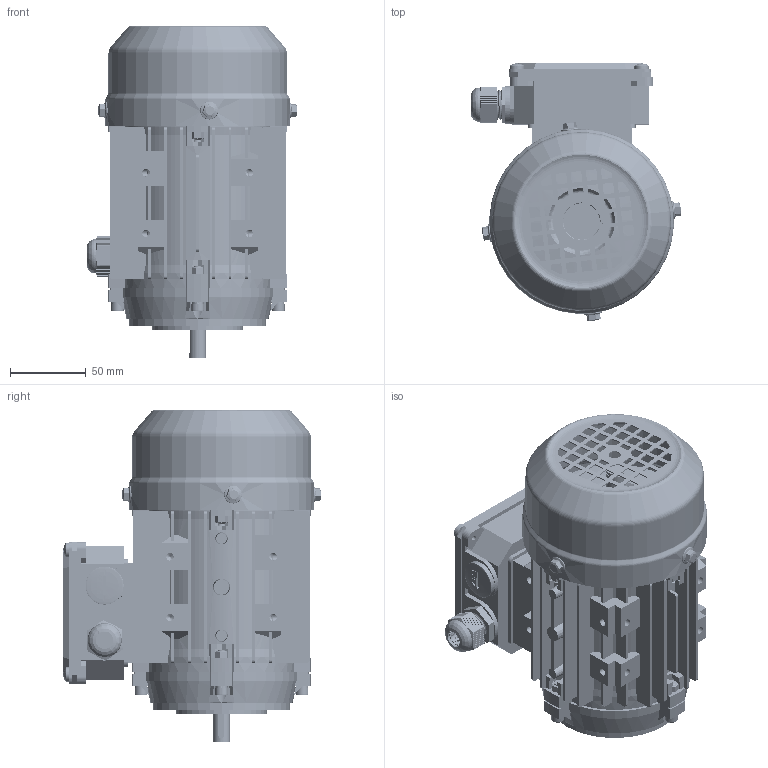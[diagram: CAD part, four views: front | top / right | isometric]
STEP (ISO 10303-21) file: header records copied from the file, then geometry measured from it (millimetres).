
FILE_DESCRIPTION (( 'STEP AP203' ), '1' );
FILE_NAME ('MS-63 B14 3Dͼ.STEP', '2024-08-05T08:48:18', ( 'User' ), ( 'China' ), 'SwSTEP 2.0', 'SolidWorks 2018', '' );
FILE_SCHEMA (( 'CONFIG_CONTROL_DESIGN' ));
Length unit declared in the file: millimetre
Products named in the file (18): spring lock washers--normal type gb_GB_FASTENER_WASHER_SW 5; 蚐猾24X12X5; MS63 邧脯瑞欶; MS63-71諉盄碟菁釱; hex flange bolts-heavy grade b gb_GB_FASTENER_BOLT_HFBB M5X10-S; MS63-71諉盄碟裔; cross recessed pan head screws gb_GB_CROSS_SCREWS_TYPE1 M5X6-6  H type-S; 蹟杶郋M20X1.5; MS63 B14ヶ裔; 蹟簸M20X1.5; MS63 儂褲; MS-63 B14  3Dͼ; 黑芛20X1.5; MS63 B3綴裔; hexagon socket head cap screws gb_GB_FASTENER_SCREWS_HSHCS M5X25-S; deep groove ball bearings gb_Rolling bearings 6201 GB 276-94; hex nuts, style 1-grades ab gb_GB_FASTENER_NUT_SNAB1 M5-S; MS63 蛌粣
Assembly tree (41 placements, depth 2):
  MS-63 B14  3Dͼ
    MS63 儂褲
    MS63 B3綴裔
    deep groove ball bearings gb_Rolling bearings 6201 GB 276-94  x2
    MS63 蛌粣
    蚐猾24X12X5  x2
    MS63-71諉盄碟菁釱
    MS63-71諉盄碟裔
    蹟杶郋M20X1.5
    蹟簸M20X1.5
    黑芛20X1.5
    hexagon socket head cap screws gb_GB_FASTENER_SCREWS_HSHCS M5X25-S  x8
    hex nuts, style 1-grades ab gb_GB_FASTENER_NUT_SNAB1 M5-S  x7
    spring lock washers--normal type gb_GB_FASTENER_WASHER_SW 5  x4
    MS63 邧脯瑞欶
    hex flange bolts-heavy grade b gb_GB_FASTENER_BOLT_HFBB M5X10-S  x4
    cross recessed pan head screws gb_GB_CROSS_SCREWS_TYPE1 M5X6-6  H type-S  x4
    MS63 B14ヶ裔
Bounding box: 138.64 x 170.12 x 218.64 mm (x, y, z)
Volume: 478617.9 mm3; surface area: 375178.3 mm2
Topology: 44 solids, 44 shells, 6837 faces, 16491 edges, 9713 vertices
Faces by surface type: cone 2558, plane 2037, cylinder 1804, torus 206, bspline 176, sphere 56
Entity records: 133262 total; most frequent: CARTESIAN_POINT 45379, ORIENTED_EDGE 18750, DIRECTION 16512, EDGE_CURVE 9375, VERTEX_POINT 5978, AXIS2_PLACEMENT_3D 5667, VECTOR 5178, LINE 5178
